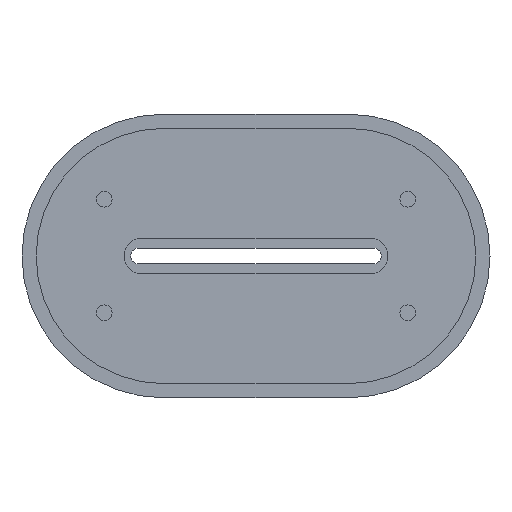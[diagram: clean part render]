
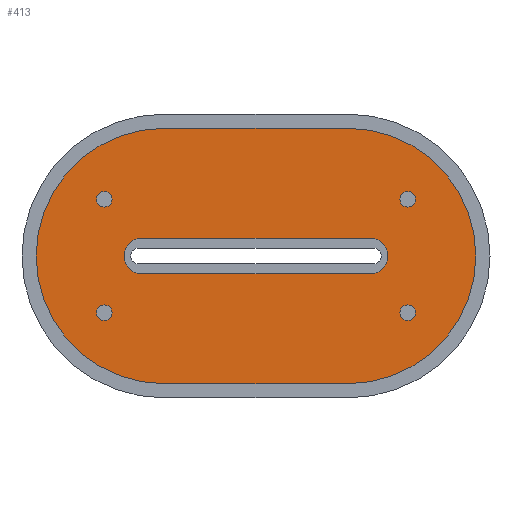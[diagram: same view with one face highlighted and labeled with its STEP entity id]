
A CAD part, front view. The second image highlights one B-rep face of the part: STEP entity #413.
In plain terms, the highlighted planar face has unit normal (0, -1, 0).
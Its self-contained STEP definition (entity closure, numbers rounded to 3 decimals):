
#3 = FACE_BOUND ( 'NONE', #1204, .T. ) ;
#9 = CIRCLE ( 'NONE', #562, 2.75 ) ;
#12 = DIRECTION ( 'NONE',  ( 0., -1., 0. ) ) ;
#49 = DIRECTION ( 'NONE',  ( -1., 0., 0. ) ) ;
#82 = VERTEX_POINT ( 'NONE', #1050 ) ;
#117 = ORIENTED_EDGE ( 'NONE', *, *, #694, .F. ) ;
#124 = FACE_BOUND ( 'NONE', #340, .T. ) ;
#134 = CARTESIAN_POINT ( 'NONE',  ( -32.5, 16.5, -6.25 ) ) ;
#135 = VERTEX_POINT ( 'NONE', #204 ) ;
#152 = PLANE ( 'NONE',  #248 ) ;
#155 = DIRECTION ( 'NONE',  ( 0., 0., -1. ) ) ;
#160 = CARTESIAN_POINT ( 'NONE',  ( -40.25, 16.5, 6.25 ) ) ;
#161 = VERTEX_POINT ( 'NONE', #455 ) ;
#163 = CARTESIAN_POINT ( 'NONE',  ( -40.25, 16.5, -6.25 ) ) ;
#173 = CIRCLE ( 'NONE', #437, 6.25 ) ;
#175 = EDGE_LOOP ( 'NONE', ( #192, #369, #296, #907 ) ) ;
#192 = ORIENTED_EDGE ( 'NONE', *, *, #957, .F. ) ;
#204 = CARTESIAN_POINT ( 'NONE',  ( 40.25, 16.5, -6.25 ) ) ;
#212 = VERTEX_POINT ( 'NONE', #680 ) ;
#224 = CARTESIAN_POINT ( 'NONE',  ( 53.5, 16.5, 20. ) ) ;
#225 = CIRCLE ( 'NONE', #533, 45. ) ;
#231 = ORIENTED_EDGE ( 'NONE', *, *, #754, .F. ) ;
#237 = ORIENTED_EDGE ( 'NONE', *, *, #1072, .F. ) ;
#248 = AXIS2_PLACEMENT_3D ( 'NONE', #752, #674, #867 ) ;
#271 = DIRECTION ( 'NONE',  ( 0., 0., -1. ) ) ;
#296 = ORIENTED_EDGE ( 'NONE', *, *, #591, .F. ) ;
#323 = ORIENTED_EDGE ( 'NONE', *, *, #730, .F. ) ;
#325 = FACE_BOUND ( 'NONE', #442, .T. ) ;
#340 = EDGE_LOOP ( 'NONE', ( #885 ) ) ;
#347 = DIRECTION ( 'NONE',  ( 0., -1., 0. ) ) ;
#349 = AXIS2_PLACEMENT_3D ( 'NONE', #1202, #782, #892 ) ;
#352 = CARTESIAN_POINT ( 'NONE',  ( 40.25, 16.5, 6.25 ) ) ;
#354 = CARTESIAN_POINT ( 'NONE',  ( -32.5, 16.5, 6.25 ) ) ;
#360 = CARTESIAN_POINT ( 'NONE',  ( -53.5, 16.5, 20. ) ) ;
#368 = EDGE_CURVE ( 'NONE', #161, #161, #9, .T. ) ;
#369 = ORIENTED_EDGE ( 'NONE', *, *, #744, .F. ) ;
#374 = AXIS2_PLACEMENT_3D ( 'NONE', #360, #1169, #271 ) ;
#379 = FACE_BOUND ( 'NONE', #1054, .T. ) ;
#384 = CARTESIAN_POINT ( 'NONE',  ( -32.5, 16.5, 45. ) ) ;
#397 = DIRECTION ( 'NONE',  ( 0., 0., 1. ) ) ;
#402 = DIRECTION ( 'NONE',  ( 0., 0., 1. ) ) ;
#409 = DIRECTION ( 'NONE',  ( 0., 0., 1. ) ) ;
#413 = ADVANCED_FACE ( 'NONE', ( #611, #3, #379, #124, #325, #862 ), #152, .F. ) ;
#418 = ORIENTED_EDGE ( 'NONE', *, *, #476, .F. ) ;
#426 = DIRECTION ( 'NONE',  ( 0., 0., -1. ) ) ;
#431 = ORIENTED_EDGE ( 'NONE', *, *, #1112, .F. ) ;
#436 = ORIENTED_EDGE ( 'NONE', *, *, #593, .F. ) ;
#437 = AXIS2_PLACEMENT_3D ( 'NONE', #1117, #12, #397 ) ;
#441 = CARTESIAN_POINT ( 'NONE',  ( -32.5, 16.5, -45. ) ) ;
#442 = EDGE_LOOP ( 'NONE', ( #323 ) ) ;
#455 = CARTESIAN_POINT ( 'NONE',  ( 53.5, 16.5, 17.25 ) ) ;
#456 = DIRECTION ( 'NONE',  ( 0., -1., 0. ) ) ;
#457 = DIRECTION ( 'NONE',  ( 1., 0., 0. ) ) ;
#472 = CARTESIAN_POINT ( 'NONE',  ( -53.5, 16.5, -22.75 ) ) ;
#473 = VERTEX_POINT ( 'NONE', #160 ) ;
#475 = VERTEX_POINT ( 'NONE', #352 ) ;
#476 = EDGE_CURVE ( 'NONE', #82, #82, #541, .T. ) ;
#491 = CIRCLE ( 'NONE', #1266, 2.75 ) ;
#493 = CARTESIAN_POINT ( 'NONE',  ( 32.5, 16.5, -45. ) ) ;
#497 = EDGE_LOOP ( 'NONE', ( #436, #431, #237, #231 ) ) ;
#501 = CARTESIAN_POINT ( 'NONE',  ( -32.5, 16.5, -45. ) ) ;
#533 = AXIS2_PLACEMENT_3D ( 'NONE', #1017, #1196, #402 ) ;
#541 = CIRCLE ( 'NONE', #374, 2.75 ) ;
#544 = DIRECTION ( 'NONE',  ( 0., 0., -1. ) ) ;
#562 = AXIS2_PLACEMENT_3D ( 'NONE', #224, #456, #155 ) ;
#591 = EDGE_CURVE ( 'NONE', #1201, #665, #225, .T. ) ;
#593 = EDGE_CURVE ( 'NONE', #473, #747, #638, .T. ) ;
#611 = FACE_OUTER_BOUND ( 'NONE', #175, .T. ) ;
#619 = LINE ( 'NONE', #354, #1004 ) ;
#636 = DIRECTION ( 'NONE',  ( -1., 0., 0. ) ) ;
#638 = CIRCLE ( 'NONE', #349, 6.25 ) ;
#665 = VERTEX_POINT ( 'NONE', #493 ) ;
#674 = DIRECTION ( 'NONE',  ( 0., 1., 0. ) ) ;
#676 = VERTEX_POINT ( 'NONE', #472 ) ;
#680 = CARTESIAN_POINT ( 'NONE',  ( -32.5, 16.5, 45. ) ) ;
#688 = AXIS2_PLACEMENT_3D ( 'NONE', #1131, #347, #426 ) ;
#694 = EDGE_CURVE ( 'NONE', #676, #676, #491, .T. ) ;
#730 = EDGE_CURVE ( 'NONE', #1261, #1261, #816, .T. ) ;
#742 = DIRECTION ( 'NONE',  ( 0., -1., 0. ) ) ;
#744 = EDGE_CURVE ( 'NONE', #665, #1029, #941, .T. ) ;
#747 = VERTEX_POINT ( 'NONE', #163 ) ;
#748 = LINE ( 'NONE', #134, #974 ) ;
#752 = CARTESIAN_POINT ( 'NONE',  ( -32.5, 16.5, 0. ) ) ;
#754 = EDGE_CURVE ( 'NONE', #747, #135, #748, .T. ) ;
#782 = DIRECTION ( 'NONE',  ( 0., -1., 0. ) ) ;
#816 = CIRCLE ( 'NONE', #688, 2.75 ) ;
#831 = CARTESIAN_POINT ( 'NONE',  ( -53.5, 16.5, -20. ) ) ;
#862 = FACE_BOUND ( 'NONE', #497, .T. ) ;
#863 = CARTESIAN_POINT ( 'NONE',  ( 53.5, 16.5, -22.75 ) ) ;
#867 = DIRECTION ( 'NONE',  ( 0., 0., 1. ) ) ;
#885 = ORIENTED_EDGE ( 'NONE', *, *, #368, .F. ) ;
#892 = DIRECTION ( 'NONE',  ( 0., 0., 1. ) ) ;
#907 = ORIENTED_EDGE ( 'NONE', *, *, #908, .F. ) ;
#908 = EDGE_CURVE ( 'NONE', #212, #1201, #1284, .T. ) ;
#925 = CARTESIAN_POINT ( 'NONE',  ( 32.5, 16.5, 45. ) ) ;
#941 = LINE ( 'NONE', #441, #1059 ) ;
#957 = EDGE_CURVE ( 'NONE', #1029, #212, #1032, .T. ) ;
#974 = VECTOR ( 'NONE', #1228, 1000. ) ;
#987 = CARTESIAN_POINT ( 'NONE',  ( -32.5, 16.5, 0. ) ) ;
#1004 = VECTOR ( 'NONE', #49, 1000. ) ;
#1017 = CARTESIAN_POINT ( 'NONE',  ( 32.5, 16.5, 0. ) ) ;
#1029 = VERTEX_POINT ( 'NONE', #501 ) ;
#1032 = CIRCLE ( 'NONE', #1223, 45. ) ;
#1050 = CARTESIAN_POINT ( 'NONE',  ( -53.5, 16.5, 17.25 ) ) ;
#1054 = EDGE_LOOP ( 'NONE', ( #418 ) ) ;
#1059 = VECTOR ( 'NONE', #636, 1000. ) ;
#1072 = EDGE_CURVE ( 'NONE', #135, #475, #173, .T. ) ;
#1112 = EDGE_CURVE ( 'NONE', #475, #473, #619, .T. ) ;
#1117 = CARTESIAN_POINT ( 'NONE',  ( 40.25, 16.5, 0. ) ) ;
#1131 = CARTESIAN_POINT ( 'NONE',  ( 53.5, 16.5, -20. ) ) ;
#1169 = DIRECTION ( 'NONE',  ( 0., -1., 0. ) ) ;
#1183 = VECTOR ( 'NONE', #457, 1000. ) ;
#1196 = DIRECTION ( 'NONE',  ( 0., 1., 0. ) ) ;
#1201 = VERTEX_POINT ( 'NONE', #925 ) ;
#1202 = CARTESIAN_POINT ( 'NONE',  ( -40.25, 16.5, 0. ) ) ;
#1204 = EDGE_LOOP ( 'NONE', ( #117 ) ) ;
#1214 = DIRECTION ( 'NONE',  ( 0., 1., 0. ) ) ;
#1223 = AXIS2_PLACEMENT_3D ( 'NONE', #987, #1214, #409 ) ;
#1228 = DIRECTION ( 'NONE',  ( 1., 0., 0. ) ) ;
#1261 = VERTEX_POINT ( 'NONE', #863 ) ;
#1266 = AXIS2_PLACEMENT_3D ( 'NONE', #831, #742, #544 ) ;
#1284 = LINE ( 'NONE', #384, #1183 ) ;
